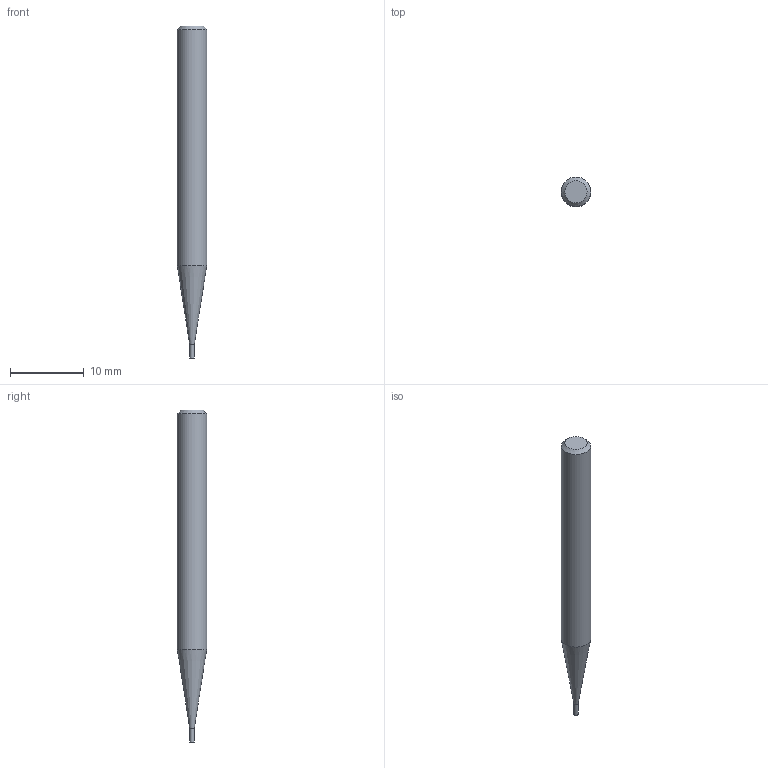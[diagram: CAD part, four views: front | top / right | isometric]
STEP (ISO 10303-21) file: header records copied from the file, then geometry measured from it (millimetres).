
FILE_DESCRIPTION((''),'2;1');
FILE_NAME('C:\Users\nsx150\Desktop\RSE230_20210427\01-00644-00600 RSE230 D0_6X1_8.step','2021-05-07T14:52:53',(''),(''),'STEP Write','Mastercam 2021 ... CNC Software, Inc.','');
FILE_SCHEMA(('AUTOMOTIVE_DESIGN'));
Length unit declared in the file: millimetre
Products named in the file (1): None
Bounding box: 4 x 4 x 45 mm (x, y, z)
Volume: 459.8 mm3; surface area: 499.3 mm2
Topology: 2 solids, 2 shells, 8 faces, 10 edges, 6 vertices
Faces by surface type: plane 4, cylinder 2, cone 2
Full cylindrical faces by diameter (mm): 0.6 x1, 4 x1
Entity records: 190 total; most frequent: DIRECTION 32, CARTESIAN_POINT 22, AXIS2_PLACEMENT_3D 16, ORIENTED_EDGE 12, EDGE_LOOP 12, STYLED_ITEM 11, ADVANCED_FACE 8, VERTEX_POINT 6
